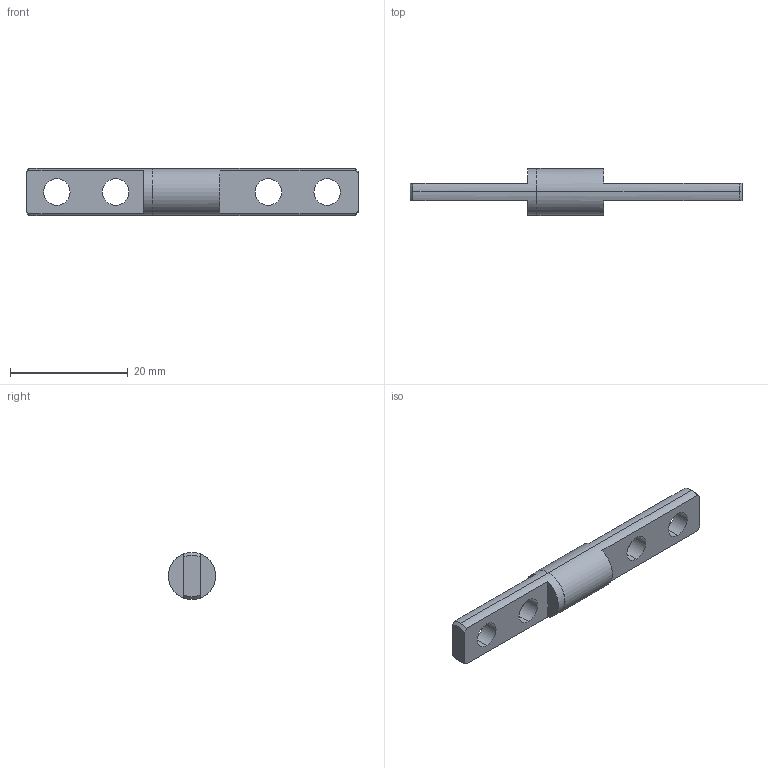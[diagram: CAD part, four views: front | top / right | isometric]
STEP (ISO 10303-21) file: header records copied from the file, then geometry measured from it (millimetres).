
FILE_DESCRIPTION (( 'STEP AP203' ), '1' );
FILE_NAME ('XG11-076-4.STEP', '2025-07-04T06:19:55', ( '微软用户' ), ( '微软中国' ), 'SwSTEP 2.0', 'SolidWorks 2024', '' );
FILE_SCHEMA (( 'CONFIG_CONTROL_DESIGN' ));
Length unit declared in the file: millimetre
Products named in the file (1): XG11-076-4
Bounding box: 56.5 x 8 x 8 mm (x, y, z)
Volume: 1480 mm3; surface area: 1377.9 mm2
Topology: 1 solids, 1 shells, 32 faces, 82 edges, 52 vertices
Faces by surface type: cylinder 12, plane 10, cone 6, torus 4
Entity records: 1087 total; most frequent: CARTESIAN_POINT 191, DIRECTION 184, ORIENTED_EDGE 164, EDGE_CURVE 82, AXIS2_PLACEMENT_3D 77, VERTEX_POINT 52, CIRCLE 44, EDGE_LOOP 40
